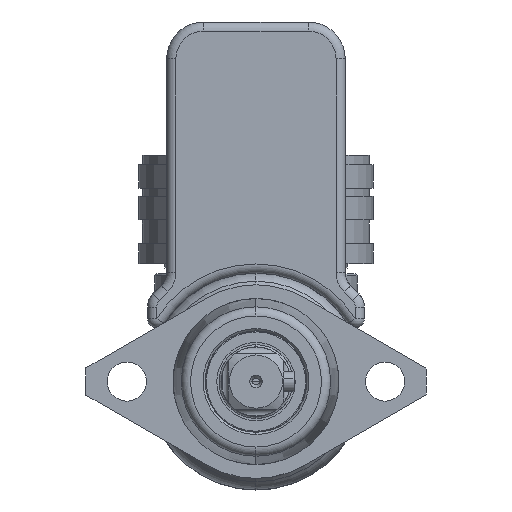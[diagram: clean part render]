
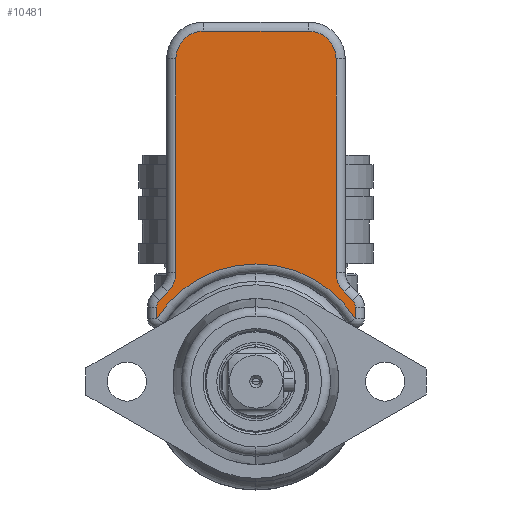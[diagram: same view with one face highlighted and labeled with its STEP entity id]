
A CAD part, left-side view. The second image highlights one B-rep face of the part: STEP entity #10481.
In plain terms, the highlighted planar face has unit normal (-1, 0, 0).
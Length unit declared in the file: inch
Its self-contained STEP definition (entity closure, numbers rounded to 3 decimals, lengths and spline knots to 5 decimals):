
#986 = CARTESIAN_POINT ( 'NONE',  ( -2.25852, -0.61, 0.54306 ) ) ;
#988 = DIRECTION ( 'NONE',  ( -1., 0., 0. ) ) ;
#990 = DIRECTION ( 'NONE',  ( 0., 1., 0. ) ) ;
#1160 = CARTESIAN_POINT ( 'NONE',  ( -2.25852, -0.355, 2.22484 ) ) ;
#1162 = DIRECTION ( 'NONE',  ( -1., 0., 0. ) ) ;
#1164 = DIRECTION ( 'NONE',  ( 0., 1., 0. ) ) ;
#1241 = CARTESIAN_POINT ( 'NONE',  ( -2.25852, 0.673, 0.54306 ) ) ;
#1242 = DIRECTION ( 'NONE',  ( 0., 0., -1. ) ) ;
#1457 = CARTESIAN_POINT ( 'NONE',  ( -2.25852, 0.61, 0.54306 ) ) ;
#1458 = DIRECTION ( 'NONE',  ( -1., 0., 0. ) ) ;
#1459 = DIRECTION ( 'NONE',  ( 0., 1., 0. ) ) ;
#1619 = CARTESIAN_POINT ( 'NONE',  ( -2.25852, 0.61, 2.41284 ) ) ;
#1620 = DIRECTION ( 'NONE',  ( 0., 1., 0. ) ) ;
#1954 = ORIENTED_EDGE ( 'NONE', *, *, #40065, .T. ) ;
#1961 = ORIENTED_EDGE ( 'NONE', *, *, #40262, .T. ) ;
#1993 = ORIENTED_EDGE ( 'NONE', *, *, #40253, .T. ) ;
#1994 = ORIENTED_EDGE ( 'NONE', *, *, #44395, .T. ) ;
#1998 = ORIENTED_EDGE ( 'NONE', *, *, #39028, .T. ) ;
#2001 = ORIENTED_EDGE ( 'NONE', *, *, #44294, .T. ) ;
#2002 = ORIENTED_EDGE ( 'NONE', *, *, #39049, .T. ) ;
#2007 = ORIENTED_EDGE ( 'NONE', *, *, #39151, .T. ) ;
#2053 = ORIENTED_EDGE ( 'NONE', *, *, #40054, .T. ) ;
#2066 = ORIENTED_EDGE ( 'NONE', *, *, #44333, .T. ) ;
#2145 = ORIENTED_EDGE ( 'NONE', *, *, #44454, .T. ) ;
#2244 = ORIENTED_EDGE ( 'NONE', *, *, #44322, .T. ) ;
#2247 = ORIENTED_EDGE ( 'NONE', *, *, #40080, .T. ) ;
#2373 = ORIENTED_EDGE ( 'NONE', *, *, #44650, .T. ) ;
#3197 = VERTEX_POINT ( 'NONE', #29917 ) ;
#3416 = VERTEX_POINT ( 'NONE', #29886 ) ;
#4082 = AXIS2_PLACEMENT_3D ( 'NONE', #24652, #25041, #24196 ) ;
#4134 = AXIS2_PLACEMENT_3D ( 'NONE', #5442, #5443, #5444 ) ;
#4135 = AXIS2_PLACEMENT_3D ( 'NONE', #5451, #5452, #5453 ) ;
#4152 = AXIS2_PLACEMENT_3D ( 'NONE', #986, #988, #990 ) ;
#4165 = AXIS2_PLACEMENT_3D ( 'NONE', #1160, #1162, #1164 ) ;
#4197 = AXIS2_PLACEMENT_3D ( 'NONE', #1457, #1458, #1459 ) ;
#4283 = AXIS2_PLACEMENT_3D ( 'NONE', #43643, #43644, #43645 ) ;
#5442 = CARTESIAN_POINT ( 'NONE',  ( -2.25852, 0., 0.03784 ) ) ;
#5443 = DIRECTION ( 'NONE',  ( 1., 0., 0. ) ) ;
#5444 = DIRECTION ( 'NONE',  ( 0., 1., 0. ) ) ;
#5451 = CARTESIAN_POINT ( 'NONE',  ( -2.25852, -0.73, 0.77661 ) ) ;
#5452 = DIRECTION ( 'NONE',  ( 1., 0., 0. ) ) ;
#5453 = DIRECTION ( 'NONE',  ( 0., 1., 0. ) ) ;
#10481 = ADVANCED_FACE ( 'NONE', ( #19190 ), #38005, .T. ) ;
#13465 = EDGE_LOOP ( 'NONE', ( #2002, #2007, #2053, #1994, #2066, #1993, #1998, #2001, #1954, #1961, #2247, #2244, #2145, #2373 ) ) ;
#15813 = VERTEX_POINT ( 'NONE', #23933 ) ;
#15819 = VERTEX_POINT ( 'NONE', #23681 ) ;
#15847 = VERTEX_POINT ( 'NONE', #23763 ) ;
#15911 = VERTEX_POINT ( 'NONE', #24043 ) ;
#15935 = VERTEX_POINT ( 'NONE', #23894 ) ;
#15998 = VERTEX_POINT ( 'NONE', #23577 ) ;
#16004 = VERTEX_POINT ( 'NONE', #24766 ) ;
#16082 = VERTEX_POINT ( 'NONE', #24171 ) ;
#16117 = VERTEX_POINT ( 'NONE', #23396 ) ;
#16193 = VERTEX_POINT ( 'NONE', #23997 ) ;
#16298 = VERTEX_POINT ( 'NONE', #24915 ) ;
#18415 = AXIS2_PLACEMENT_3D ( 'NONE', #38070, #38035, #38034 ) ;
#19190 = FACE_OUTER_BOUND ( 'NONE', #13465, .T. ) ;
#23396 = CARTESIAN_POINT ( 'NONE',  ( -2.25852, -0.65455, 0.58761 ) ) ;
#23577 = CARTESIAN_POINT ( 'NONE',  ( -2.25852, 0.673, 0.54306 ) ) ;
#23681 = CARTESIAN_POINT ( 'NONE',  ( -2.25852, 0.65455, 0.58761 ) ) ;
#23763 = CARTESIAN_POINT ( 'NONE',  ( -2.25852, 0.59777, 0.64438 ) ) ;
#23894 = CARTESIAN_POINT ( 'NONE',  ( -2.25852, -0.355, 2.41284 ) ) ;
#23933 = CARTESIAN_POINT ( 'NONE',  ( -2.25852, -0.59777, 0.64438 ) ) ;
#23997 = CARTESIAN_POINT ( 'NONE',  ( -2.25852, -0.673, 0.54306 ) ) ;
#24043 = CARTESIAN_POINT ( 'NONE',  ( -2.25852, -0.673, 0.46478 ) ) ;
#24171 = CARTESIAN_POINT ( 'NONE',  ( -2.25852, 0.543, 0.77661 ) ) ;
#24185 = DIRECTION ( 'NONE',  ( 0., 0.707, -0.707 ) ) ;
#24196 = DIRECTION ( 'NONE',  ( 0., 1., 0. ) ) ;
#24198 = CARTESIAN_POINT ( 'NONE',  ( -2.25852, 0.65455, 0.58761 ) ) ;
#24217 = DIRECTION ( 'NONE',  ( 0., 0.707, 0.707 ) ) ;
#24249 = CARTESIAN_POINT ( 'NONE',  ( -2.25852, -0.04455, 1.19761 ) ) ;
#24321 = CARTESIAN_POINT ( 'NONE',  ( -2.25852, -0.543, 0.54306 ) ) ;
#24326 = DIRECTION ( 'NONE',  ( 0., 0., 1. ) ) ;
#24652 = CARTESIAN_POINT ( 'NONE',  ( -2.25852, 0.73, 0.77661 ) ) ;
#24766 = CARTESIAN_POINT ( 'NONE',  ( -2.25852, 0.543, 2.22484 ) ) ;
#24915 = CARTESIAN_POINT ( 'NONE',  ( -2.25852, 0.673, 0.46478 ) ) ;
#24985 = CARTESIAN_POINT ( 'NONE',  ( -2.25852, 0.543, 0.54306 ) ) ;
#25008 = DIRECTION ( 'NONE',  ( 0., 0., -1. ) ) ;
#25041 = DIRECTION ( 'NONE',  ( 1., 0., 0. ) ) ;
#25246 = DIRECTION ( 'NONE',  ( 0., 0., 1. ) ) ;
#25461 = CARTESIAN_POINT ( 'NONE',  ( -2.25852, -0.673, 0.54306 ) ) ;
#25602 = CARTESIAN_POINT ( 'NONE',  ( -2.25852, -0.543, 0.77661 ) ) ;
#27009 = CIRCLE ( 'NONE', #4197, 0.063 ) ;
#27187 = LINE ( 'NONE', #1619, #27196 ) ;
#27196 = VECTOR ( 'NONE', #1620, 39.37008 ) ;
#27795 = CIRCLE ( 'NONE', #4283, 0.188 ) ;
#29886 = CARTESIAN_POINT ( 'NONE',  ( -2.25852, 0.355, 2.41284 ) ) ;
#29917 = CARTESIAN_POINT ( 'NONE',  ( -2.25852, -0.543, 2.22484 ) ) ;
#32569 = LINE ( 'NONE', #25461, #32578 ) ;
#32578 = VECTOR ( 'NONE', #25246, 39.37008 ) ;
#32601 = LINE ( 'NONE', #24985, #32604 ) ;
#32604 = VECTOR ( 'NONE', #25008, 39.37008 ) ;
#32695 = CIRCLE ( 'NONE', #4082, 0.187 ) ;
#34115 = VERTEX_POINT ( 'NONE', #25602 ) ;
#38005 = PLANE ( 'NONE',  #18415 ) ;
#38034 = DIRECTION ( 'NONE',  ( 0., 1., 0. ) ) ;
#38035 = DIRECTION ( 'NONE',  ( -1., 0., 0. ) ) ;
#38070 = CARTESIAN_POINT ( 'NONE',  ( -2.25852, 0.61, 0.54306 ) ) ;
#39028 = EDGE_CURVE ( 'NONE', #15911, #16193, #32569, .T. ) ;
#39049 = EDGE_CURVE ( 'NONE', #16004, #16082, #32601, .T. ) ;
#39151 = EDGE_CURVE ( 'NONE', #16082, #15847, #32695, .T. ) ;
#40054 = EDGE_CURVE ( 'NONE', #15847, #15819, #44951, .T. ) ;
#40065 = EDGE_CURVE ( 'NONE', #16117, #15813, #44968, .T. ) ;
#40080 = EDGE_CURVE ( 'NONE', #34115, #3197, #44982, .T. ) ;
#40253 = EDGE_CURVE ( 'NONE', #16298, #15911, #45101, .T. ) ;
#40262 = EDGE_CURVE ( 'NONE', #15813, #34115, #45116, .T. ) ;
#43643 = CARTESIAN_POINT ( 'NONE',  ( -2.25852, 0.355, 2.22484 ) ) ;
#43644 = DIRECTION ( 'NONE',  ( -1., 0., 0. ) ) ;
#43645 = DIRECTION ( 'NONE',  ( 0., 1., 0. ) ) ;
#44294 = EDGE_CURVE ( 'NONE', #16193, #16117, #45952, .T. ) ;
#44322 = EDGE_CURVE ( 'NONE', #3197, #15935, #45992, .T. ) ;
#44333 = EDGE_CURVE ( 'NONE', #15998, #16298, #46006, .T. ) ;
#44395 = EDGE_CURVE ( 'NONE', #15819, #15998, #27009, .T. ) ;
#44454 = EDGE_CURVE ( 'NONE', #15935, #3416, #27187, .T. ) ;
#44650 = EDGE_CURVE ( 'NONE', #3416, #16004, #27795, .T. ) ;
#44951 = LINE ( 'NONE', #24198, #44964 ) ;
#44964 = VECTOR ( 'NONE', #24185, 39.37008 ) ;
#44968 = LINE ( 'NONE', #24249, #44971 ) ;
#44971 = VECTOR ( 'NONE', #24217, 39.37008 ) ;
#44982 = LINE ( 'NONE', #24321, #44985 ) ;
#44985 = VECTOR ( 'NONE', #24326, 39.37008 ) ;
#45101 = CIRCLE ( 'NONE', #4134, 0.797 ) ;
#45116 = CIRCLE ( 'NONE', #4135, 0.187 ) ;
#45952 = CIRCLE ( 'NONE', #4152, 0.063 ) ;
#45992 = CIRCLE ( 'NONE', #4165, 0.188 ) ;
#46006 = LINE ( 'NONE', #1241, #46007 ) ;
#46007 = VECTOR ( 'NONE', #1242, 39.37008 ) ;
